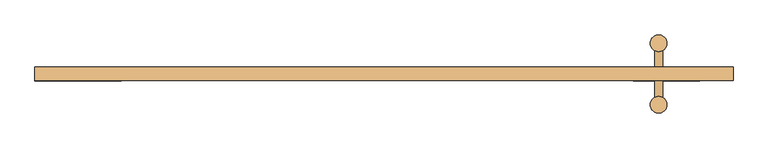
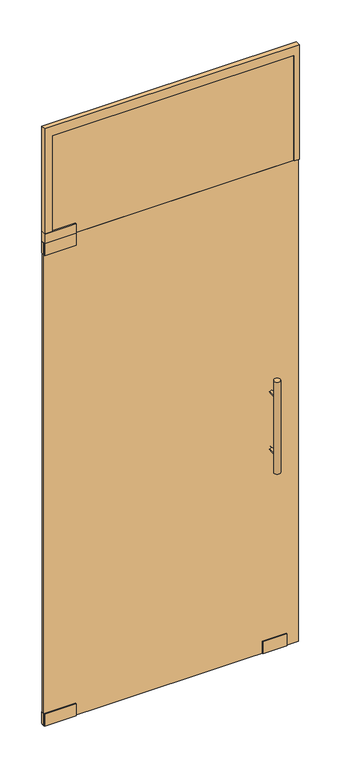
"""IFC4 building model written with IfcOpenShell, lengths in millimetres: door geometry, V03 VIDRIO PUERTA BATIENTE VIDRIO FIJO SUPERIOR : V03.1 VIDRIO PUERTA BATIENTE VIDRIO FIJO SUPERIOR 105x260."""

from ifc_helpers import new_model, si_unit, point, frame, frame_2d, origin, origin_with_axes, place, context, project, spatial, polyline, circle_curve, trimmed, segment, composite_curve, outline, extrude, source, transform, mapped, element, save


def door_8a4f658c(model_context):
    return source(origin(), model_context, "Body", "SweptSolid", [
        extrude(outline(polyline([(-665.0, -10.0), (-795.0, -10.0), (-795.0, 10.0), (-665.0, 10.0), (-665.0, -10.0)])), frame((0.0, 0.0, 2048.0), z_axis=(0.0, 0.0, 1.0), x_axis=(1.0, 0.0, 0.0)), (0.0, 0.0, 1.0), 52.0),
        extrude(outline(polyline([(-665.0, -10.0), (-795.0, -10.0), (-795.0, 10.0), (-665.0, 10.0), (-665.0, -10.0)])), frame((0.0, 0.0, 2100.0), z_axis=(0.0, 0.0, 1.0), x_axis=(1.0, 0.0, 0.0)), (0.0, 0.0, 1.0), 42.0),
        extrude(outline(composite_curve([segment(trimmed(circle_curve(frame_2d((1125.0, 143.0)), 6.0), [point((1125.0, 137.0))], [point((1125.0, 149.0))], False, "CARTESIAN"), True, "CONTINUOUS"), segment(trimmed(circle_curve(frame_2d((1125.0, 143.0)), 6.0), [point((1125.0, 149.0))], [point((1125.0, 137.0))], False, "CARTESIAN"), True, "CONTINUOUS")], self_intersect=False)), frame((0.0, -36.0, 0.0), z_axis=(0.0, 1.0, 0.0), x_axis=(0.0, 0.0, 1.0)), (0.0, 0.0, 1.0), 72.0),
        extrude(outline(composite_curve([segment(trimmed(circle_curve(frame_2d((875.0, 143.0)), 6.0), [point((875.0, 137.0))], [point((875.0, 149.0))], False, "CARTESIAN"), True, "CONTINUOUS"), segment(trimmed(circle_curve(frame_2d((875.0, 143.0)), 6.0), [point((875.0, 149.0))], [point((875.0, 137.0))], False, "CARTESIAN"), True, "CONTINUOUS")], self_intersect=False)), frame((0.0, -36.0, 0.0), z_axis=(0.0, 1.0, 0.0), x_axis=(0.0, 0.0, 1.0)), (0.0, 0.0, 1.0), 72.0),
        extrude(outline(composite_curve([segment(trimmed(circle_curve(frame_2d((143.0, 46.5)), 12.5), [point((130.5, 46.5))], [point((155.5, 46.5))], False, "CARTESIAN"), True, "CONTINUOUS"), segment(trimmed(circle_curve(frame_2d((143.0, 46.5)), 12.5), [point((155.5, 46.5))], [point((130.5, 46.5))], False, "CARTESIAN"), True, "CONTINUOUS")], self_intersect=False)), frame((0.0, 0.0, 800.0), z_axis=(0.0, 0.0, 1.0), x_axis=(1.0, 0.0, 0.0)), (0.0, 0.0, 1.0), 400.0),
        extrude(outline(composite_curve([segment(trimmed(circle_curve(frame_2d((143.0, -46.5)), 12.5), [point((130.5, -46.5))], [point((155.5, -46.5))], False, "CARTESIAN"), True, "CONTINUOUS"), segment(trimmed(circle_curve(frame_2d((143.0, -46.5)), 12.5), [point((155.5, -46.5))], [point((130.5, -46.5))], False, "CARTESIAN"), True, "CONTINUOUS")], self_intersect=False)), frame((0.0, 0.0, 800.0), z_axis=(0.0, 0.0, 1.0), x_axis=(1.0, 0.0, 0.0)), (0.0, 0.0, 1.0), 400.0),
        extrude(outline(polyline([(205.0, -10.0), (105.0, -10.0), (105.0, 10.0), (205.0, 10.0), (205.0, -10.0)])), origin_with_axes(), (0.0, 0.0, 1.0), 52.0),
        extrude(outline(polyline([(-665.0, -10.0), (-795.0, -10.0), (-795.0, 10.0), (-665.0, 10.0), (-665.0, -10.0)])), origin_with_axes(), (0.0, 0.0, 1.0), 52.0),
        extrude(outline(polyline([(2560.0, 235.0), (2560.0, -764.0052778), (2120.0, -764.0052778), (2100.0, -764.0052778), (2100.0, 235.0), (2560.0, 235.0)])), frame((0.0, -5.0, 0.0), z_axis=(0.0, 1.0, 0.0), x_axis=(0.0, 0.0, 1.0)), (0.0, 0.0, 1.0), 10.0),
        extrude(outline(polyline([(2600.0, -795.0), (2120.0, -795.0), (2120.0, -764.0052778), (2560.0, -764.0052778), (2560.0, 235.0), (2100.0, 235.0), (2100.0, 255.0), (2600.0, 255.0), (2600.0, -795.0)])), frame((0.0, -10.0, 0.0), z_axis=(0.0, 1.0, 0.0), x_axis=(0.0, 0.0, 1.0)), (0.0, 0.0, 1.0), 20.0),
        extrude(outline(polyline([(255.0, -5.0), (-795.0, -5.0), (-795.0, 5.0), (255.0, 5.0), (255.0, -5.0)])), origin_with_axes(), (0.0, 0.0, 1.0), 2100.0),
    ])


if __name__ == "__main__":
    model = new_model("IFC4")
    model_context = context("Model", 3, world=origin())
    ifc_project = project(units=[si_unit("LENGTHUNIT", "METRE", prefix="MILLI")], contexts=[model_context])
    site = spatial("IfcSite", under=ifc_project)
    building = spatial("IfcBuilding", under=site)
    placement = place(None, origin())
    door_shape = door_8a4f658c(model_context)
    element("IfcDoor", 1, ObjectType="V03 VIDRIO PUERTA BATIENTE VIDRIO FIJO SUPERIOR : V03.1 VIDRIO PUERTA BATIENTE VIDRIO FIJO SUPERIOR 105x260", at=placement, inside=building, context=model_context, shape_type="MappedRepresentation", body=[
        mapped(door_shape, transform((0.0, 0.0, 0.0), x_axis=(1.0, 0.0, 0.0), y_axis=(0.0, 1.0, 0.0), z_axis=(0.0, 0.0, 1.0))),
    ])
    save(model, "model.ifc")
